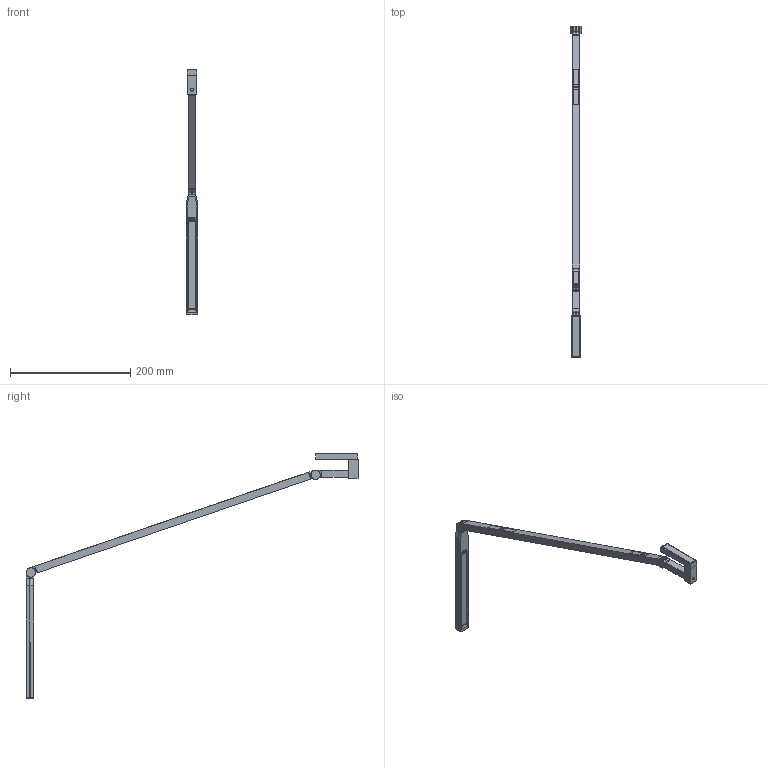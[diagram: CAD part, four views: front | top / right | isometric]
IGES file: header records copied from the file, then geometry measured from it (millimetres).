
Start section: SolidWorks IGES file using analytic representation for surfaces
Global section: file name: C:\Users\MarcoErba\Desktop\800UNTLNN151_UNTITLED MINI LINEAR WALL.IGS; native system: SolidWorks 2016; preprocessor: SolidWorks 2016; author: MarcoErba; date: 230120.163352; units: millimetre
Bounding box: 18.4 x 552.06 x 408.39 mm (x, y, z)
Surface area: 73281.3 mm2 (no closed solid volume)
Topology: 0 solids, 0 shells, 1325 faces, 11638 edges, 11636 vertices
Faces by surface type: bspline 930, revolution 395
